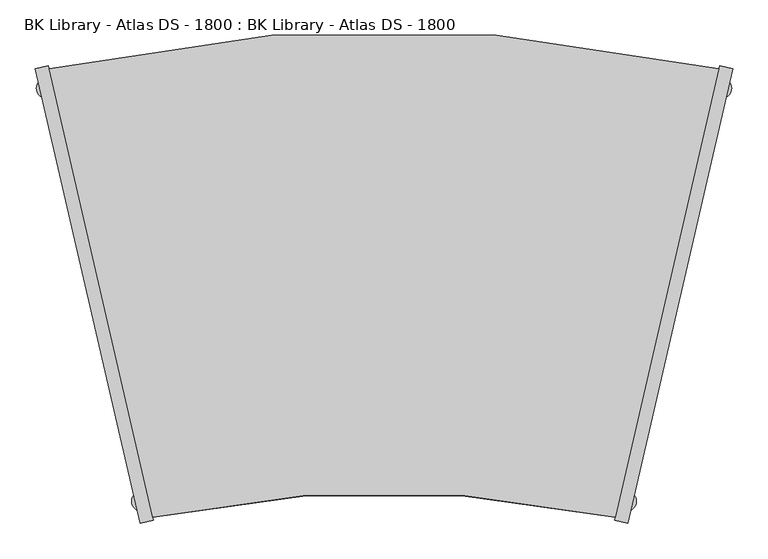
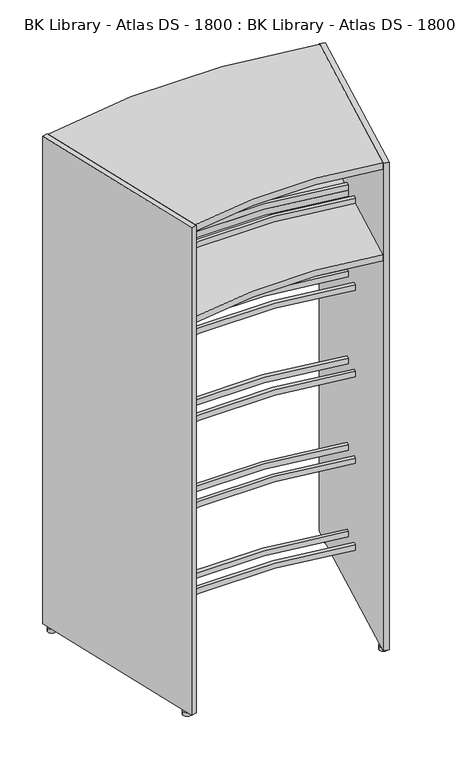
"""IFC4 building model written with IfcOpenShell, lengths in millimetres: furniture geometry, BK Library - Atlas DS - 1800 : BK Library - Atlas DS - 1800."""

from ifc_helpers import new_model, si_unit, point, frame, frame_2d, origin, origin_with_axes, place, context, project, spatial, polyline, circle_curve, trimmed, segment, composite_curve, outline, extrude, source, transform, mapped, element, save


def bk_library_atlas_ds_1800_bk_library_atlas_ds_1800_477fe875(model_context):
    return source(origin(), model_context, "Body", "SweptSolid", [
        extrude(outline(composite_curve([segment(trimmed(circle_curve(frame_2d((0.0, -1840.4430404)), 1557.6392973), [point((327.6944521, -317.663829))], [point((-327.6944521, -317.663829))], True, "CARTESIAN"), True, "CONTINUOUS"), segment(polyline([(-327.6944521, -317.663829), (-394.2058088, -29.2269986)]), True, "CONTINUOUS"), segment(trimmed(circle_curve(frame_2d((0.0, -1785.1487517)), 1799.627579), [point((-394.2058088, -29.2269986))], [point((394.2058088, -29.2269986))], False, "CARTESIAN"), True, "CONTINUOUS"), segment(polyline([(394.2058088, -29.2269986), (327.6944521, -317.663829)]), True, "CONTINUOUS")], self_intersect=False)), frame((0.0, 0.0, 1451.6999998), z_axis=(0.0, 0.0, 1.0), x_axis=(1.0, 0.0, 0.0)), (0.0, 0.0, 1.0), 22.0),
        extrude(outline(composite_curve([segment(trimmed(circle_curve(frame_2d((0.0, -1777.8812307)), 2148.52767), [point((-474.1962162, 317.663829))], [point((474.1962162, 317.663829))], False, "CARTESIAN"), True, "CONTINUOUS"), segment(polyline([(474.1962162, 317.663829), (407.6853202, 29.2289965)]), True, "CONTINUOUS"), segment(trimmed(circle_curve(frame_2d((0.0, -1798.2835703)), 1872.4341116), [point((407.6853202, 29.2289965))], [point((-407.6853202, 29.2289965))], True, "CARTESIAN"), True, "CONTINUOUS"), segment(polyline([(-407.6853202, 29.2289965), (-474.1962162, 317.663829)]), True, "CONTINUOUS")], self_intersect=False)), frame((0.0, 0.0, 1451.6999998), z_axis=(0.0, 0.0, 1.0), x_axis=(1.0, 0.0, 0.0)), (0.0, 0.0, 1.0), 22.0),
        extrude(outline(composite_curve([segment(trimmed(circle_curve(frame_2d((0.0, -1785.1487517)), 1799.627579), [point((-394.2058088, -29.2269986))], [point((394.2058088, -29.2269986))], False, "CARTESIAN"), True, "CONTINUOUS"), segment(polyline([(394.2058088, -29.2269986), (391.2848087, -41.8943694)]), True, "CONTINUOUS"), segment(trimmed(circle_curve(frame_2d((0.0, -1790.5831955)), 1791.9309172), [point((391.2848087, -41.8943694))], [point((-391.2848087, -41.8943694))], True, "CARTESIAN"), True, "CONTINUOUS"), segment(polyline([(-391.2848087, -41.8943694), (-394.2058088, -29.2269986)]), True, "CONTINUOUS")], self_intersect=False)), frame((0.0, 0.0, 193.6999998), z_axis=(0.0, 0.0, 1.0), x_axis=(1.0, 0.0, 0.0)), (0.0, 0.0, 1.0), 20.0),
        extrude(outline(composite_curve([segment(trimmed(circle_curve(frame_2d((0.0, -1776.6858327)), 1864.3585062), [point((-410.605951, 41.8947656))], [point((410.605951, 41.8947656))], False, "CARTESIAN"), True, "CONTINUOUS"), segment(polyline([(410.605951, 41.8947656), (407.6853202, 29.2289965)]), True, "CONTINUOUS"), segment(trimmed(circle_curve(frame_2d((0.0, -1798.2835703)), 1872.4341116), [point((407.6853202, 29.2289965))], [point((-407.6853202, 29.2289965))], True, "CARTESIAN"), True, "CONTINUOUS"), segment(polyline([(-407.6853202, 29.2289965), (-410.605951, 41.8947656)]), True, "CONTINUOUS")], self_intersect=False)), frame((0.0, 0.0, 193.6999998), z_axis=(0.0, 0.0, 1.0), x_axis=(1.0, 0.0, 0.0)), (0.0, 0.0, 1.0), 20.0),
        extrude(outline(composite_curve([segment(trimmed(circle_curve(frame_2d((0.0, -1785.1487517)), 1799.627579), [point((-394.2058088, -29.2269986))], [point((394.2058088, -29.2269986))], False, "CARTESIAN"), True, "CONTINUOUS"), segment(polyline([(394.2058088, -29.2269986), (391.2848087, -41.8943694)]), True, "CONTINUOUS"), segment(trimmed(circle_curve(frame_2d((0.0, -1790.5831955)), 1791.9309172), [point((391.2848087, -41.8943694))], [point((-391.2848087, -41.8943694))], True, "CARTESIAN"), True, "CONTINUOUS"), segment(polyline([(-391.2848087, -41.8943694), (-394.2058088, -29.2269986)]), True, "CONTINUOUS")], self_intersect=False)), frame((0.0, 0.0, 513.6999998), z_axis=(0.0, 0.0, 1.0), x_axis=(1.0, 0.0, 0.0)), (0.0, 0.0, 1.0), 20.0),
        extrude(outline(composite_curve([segment(trimmed(circle_curve(frame_2d((0.0, -1776.6858327)), 1864.3585062), [point((-410.605951, 41.8947656))], [point((410.605951, 41.8947656))], False, "CARTESIAN"), True, "CONTINUOUS"), segment(polyline([(410.605951, 41.8947656), (407.6853202, 29.2289965)]), True, "CONTINUOUS"), segment(trimmed(circle_curve(frame_2d((0.0, -1798.2835703)), 1872.4341116), [point((407.6853202, 29.2289965))], [point((-407.6853202, 29.2289965))], True, "CARTESIAN"), True, "CONTINUOUS"), segment(polyline([(-407.6853202, 29.2289965), (-410.605951, 41.8947656)]), True, "CONTINUOUS")], self_intersect=False)), frame((0.0, 0.0, 513.6999998), z_axis=(0.0, 0.0, 1.0), x_axis=(1.0, 0.0, 0.0)), (0.0, 0.0, 1.0), 20.0),
        extrude(outline(composite_curve([segment(trimmed(circle_curve(frame_2d((0.0, -1785.1487517)), 1799.627579), [point((-394.2058088, -29.2269986))], [point((394.2058088, -29.2269986))], False, "CARTESIAN"), True, "CONTINUOUS"), segment(polyline([(394.2058088, -29.2269986), (391.2848087, -41.8943694)]), True, "CONTINUOUS"), segment(trimmed(circle_curve(frame_2d((0.0, -1790.5831955)), 1791.9309172), [point((391.2848087, -41.8943694))], [point((-391.2848087, -41.8943694))], True, "CARTESIAN"), True, "CONTINUOUS"), segment(polyline([(-391.2848087, -41.8943694), (-394.2058088, -29.2269986)]), True, "CONTINUOUS")], self_intersect=False)), frame((0.0, 0.0, 833.6999998), z_axis=(0.0, 0.0, 1.0), x_axis=(1.0, 0.0, 0.0)), (0.0, 0.0, 1.0), 20.0),
        extrude(outline(composite_curve([segment(trimmed(circle_curve(frame_2d((0.0, -1776.6858327)), 1864.3585062), [point((-410.605951, 41.8947656))], [point((410.605951, 41.8947656))], False, "CARTESIAN"), True, "CONTINUOUS"), segment(polyline([(410.605951, 41.8947656), (407.6853202, 29.2289965)]), True, "CONTINUOUS"), segment(trimmed(circle_curve(frame_2d((0.0, -1798.2835703)), 1872.4341116), [point((407.6853202, 29.2289965))], [point((-407.6853202, 29.2289965))], True, "CARTESIAN"), True, "CONTINUOUS"), segment(polyline([(-407.6853202, 29.2289965), (-410.605951, 41.8947656)]), True, "CONTINUOUS")], self_intersect=False)), frame((0.0, 0.0, 833.6999998), z_axis=(0.0, 0.0, 1.0), x_axis=(1.0, 0.0, 0.0)), (0.0, 0.0, 1.0), 20.0),
        extrude(outline(composite_curve([segment(trimmed(circle_curve(frame_2d((0.0, -1785.1487517)), 1799.627579), [point((-394.2058088, -29.2269986))], [point((394.2058088, -29.2269986))], False, "CARTESIAN"), True, "CONTINUOUS"), segment(polyline([(394.2058088, -29.2269986), (391.2848087, -41.8943694)]), True, "CONTINUOUS"), segment(trimmed(circle_curve(frame_2d((0.0, -1790.5831955)), 1791.9309172), [point((391.2848087, -41.8943694))], [point((-391.2848087, -41.8943694))], True, "CARTESIAN"), True, "CONTINUOUS"), segment(polyline([(-391.2848087, -41.8943694), (-394.2058088, -29.2269986)]), True, "CONTINUOUS")], self_intersect=False)), frame((0.0, 0.0, 1153.6999998), z_axis=(0.0, 0.0, 1.0), x_axis=(1.0, 0.0, 0.0)), (0.0, 0.0, 1.0), 20.0),
        extrude(outline(composite_curve([segment(trimmed(circle_curve(frame_2d((0.0, -1776.6858327)), 1864.3585062), [point((-410.605951, 41.8947656))], [point((410.605951, 41.8947656))], False, "CARTESIAN"), True, "CONTINUOUS"), segment(polyline([(410.605951, 41.8947656), (407.6853202, 29.2289965)]), True, "CONTINUOUS"), segment(trimmed(circle_curve(frame_2d((0.0, -1798.2835703)), 1872.4341116), [point((407.6853202, 29.2289965))], [point((-407.6853202, 29.2289965))], True, "CARTESIAN"), True, "CONTINUOUS"), segment(polyline([(-407.6853202, 29.2289965), (-410.605951, 41.8947656)]), True, "CONTINUOUS")], self_intersect=False)), frame((0.0, 0.0, 1153.6999998), z_axis=(0.0, 0.0, 1.0), x_axis=(1.0, 0.0, 0.0)), (0.0, 0.0, 1.0), 20.0),
        extrude(outline(composite_curve([segment(trimmed(circle_curve(frame_2d((0.0, -1785.1487517)), 1799.627579), [point((-394.2058088, -29.2269986))], [point((394.2058088, -29.2269986))], False, "CARTESIAN"), True, "CONTINUOUS"), segment(polyline([(394.2058088, -29.2269986), (391.2848087, -41.8943694)]), True, "CONTINUOUS"), segment(trimmed(circle_curve(frame_2d((0.0, -1790.5831955)), 1791.9309172), [point((391.2848087, -41.8943694))], [point((-391.2848087, -41.8943694))], True, "CARTESIAN"), True, "CONTINUOUS"), segment(polyline([(-391.2848087, -41.8943694), (-394.2058088, -29.2269986)]), True, "CONTINUOUS")], self_intersect=False)), frame((0.0, 0.0, 1473.6999998), z_axis=(0.0, 0.0, 1.0), x_axis=(1.0, 0.0, 0.0)), (0.0, 0.0, 1.0), 20.0),
        extrude(outline(composite_curve([segment(trimmed(circle_curve(frame_2d((0.0, -1776.6858327)), 1864.3585062), [point((-410.605951, 41.8947656))], [point((410.605951, 41.8947656))], False, "CARTESIAN"), True, "CONTINUOUS"), segment(polyline([(410.605951, 41.8947656), (407.6853202, 29.2289965)]), True, "CONTINUOUS"), segment(trimmed(circle_curve(frame_2d((0.0, -1798.2835703)), 1872.4341116), [point((407.6853202, 29.2289965))], [point((-407.6853202, 29.2289965))], True, "CARTESIAN"), True, "CONTINUOUS"), segment(polyline([(-407.6853202, 29.2289965), (-410.605951, 41.8947656)]), True, "CONTINUOUS")], self_intersect=False)), frame((0.0, 0.0, 1473.6999998), z_axis=(0.0, 0.0, 1.0), x_axis=(1.0, 0.0, 0.0)), (0.0, 0.0, 1.0), 20.0),
        extrude(outline(composite_curve([segment(trimmed(circle_curve(frame_2d((0.0, -1777.8812307)), 2148.52767), [point((-474.1962162, 317.663829))], [point((474.1962162, 317.663829))], False, "CARTESIAN"), True, "CONTINUOUS"), segment(polyline([(474.1962162, 317.663829), (327.6944521, -317.663829)]), True, "CONTINUOUS"), segment(trimmed(circle_curve(frame_2d((0.0, -1840.4430404)), 1557.6392973), [point((327.6944521, -317.663829))], [point((-327.6944521, -317.663829))], True, "CARTESIAN"), True, "CONTINUOUS"), segment(polyline([(-327.6944521, -317.663829), (-474.1962162, 317.663829)]), True, "CONTINUOUS")], self_intersect=False)), frame((0.0, 0.0, 1789.6999998), z_axis=(0.0, 0.0, 1.0), x_axis=(1.0, 0.0, 0.0)), (0.0, 0.0, 1.0), 24.0),
        extrude(outline(polyline([(-345.3098178, -325.8307679), (-493.6091495, 317.2923215), (-475.095, 321.5615447), (-326.7956683, -321.5615447), (-345.3098178, -325.8307679)])), frame((0.0, 0.0, 13.6999998), z_axis=(0.0, 0.0, 1.0), x_axis=(1.0, 0.0, 0.0)), (0.0, 0.0, 1.0), 1800.0),
        extrude(outline(polyline([(475.095, 321.5615447), (493.6091495, 317.2923215), (345.3098178, -325.8307679), (326.7956683, -321.5615447), (475.095, 321.5615447)])), frame((0.0, 0.0, 13.6999998), z_axis=(0.0, 0.0, 1.0), x_axis=(1.0, 0.0, 0.0)), (0.0, 0.0, 1.0), 1800.0),
        extrude(outline(composite_curve([segment(trimmed(circle_curve(frame_2d((477.608406, 290.1883722)), 14.4994573), [point((492.1078633, 290.1883722))], [point((463.1089486, 290.1883722))], False, "CARTESIAN"), True, "CONTINUOUS"), segment(trimmed(circle_curve(frame_2d((477.608406, 290.1883722)), 14.4994573), [point((463.1089486, 290.1883722))], [point((492.1078633, 290.1883722))], False, "CARTESIAN"), True, "CONTINUOUS")], self_intersect=False)), origin_with_axes(), (0.0, 0.0, 1.0), 13.6999998),
        extrude(outline(composite_curve([segment(trimmed(circle_curve(frame_2d((-477.608406, 290.1883722)), 14.4994573), [point((-492.1078633, 290.1883722))], [point((-463.1089486, 290.1883722))], False, "CARTESIAN"), True, "CONTINUOUS"), segment(trimmed(circle_curve(frame_2d((-477.608406, 290.1883722)), 14.4994573), [point((-463.1089486, 290.1883722))], [point((-492.1078633, 290.1883722))], False, "CARTESIAN"), True, "CONTINUOUS")], self_intersect=False)), origin_with_axes(), (0.0, 0.0, 1.0), 13.6999998),
        extrude(outline(composite_curve([segment(trimmed(circle_curve(frame_2d((342.7923392, -294.4590973)), 14.4994573), [point((357.2917965, -294.4590973))], [point((328.2928818, -294.4590973))], False, "CARTESIAN"), True, "CONTINUOUS"), segment(trimmed(circle_curve(frame_2d((342.7923392, -294.4590973)), 14.4994573), [point((328.2928818, -294.4590973))], [point((357.2917965, -294.4590973))], False, "CARTESIAN"), True, "CONTINUOUS")], self_intersect=False)), origin_with_axes(), (0.0, 0.0, 1.0), 13.6999998),
        extrude(outline(composite_curve([segment(trimmed(circle_curve(frame_2d((-342.7923392, -294.4590973)), 14.4994573), [point((-357.2917965, -294.4590973))], [point((-328.2928818, -294.4590973))], False, "CARTESIAN"), True, "CONTINUOUS"), segment(trimmed(circle_curve(frame_2d((-342.7923392, -294.4590973)), 14.4994573), [point((-328.2928818, -294.4590973))], [point((-357.2917965, -294.4590973))], False, "CARTESIAN"), True, "CONTINUOUS")], self_intersect=False)), origin_with_axes(), (0.0, 0.0, 1.0), 13.6999998),
    ])


if __name__ == "__main__":
    model = new_model("IFC4")
    model_context = context("Model", 3, world=origin())
    ifc_project = project(units=[si_unit("LENGTHUNIT", "METRE", prefix="MILLI")], contexts=[model_context])
    site = spatial("IfcSite", under=ifc_project)
    building = spatial("IfcBuilding", under=site)
    placement = place(None, origin())
    bk_library_atlas_ds_1800_bk_library_atlas_ds_1800_shape = bk_library_atlas_ds_1800_bk_library_atlas_ds_1800_477fe875(model_context)
    element("IfcFurniture", 1, ObjectType="BK Library - Atlas DS - 1800 : BK Library - Atlas DS - 1800", at=placement, inside=building, context=model_context, shape_type="MappedRepresentation", body=[
        mapped(bk_library_atlas_ds_1800_bk_library_atlas_ds_1800_shape, transform((0.0, 0.0, 0.0), x_axis=(1.0, 0.0, 0.0), y_axis=(0.0, 1.0, 0.0), z_axis=(0.0, 0.0, 1.0))),
    ])
    save(model, "model.ifc")
